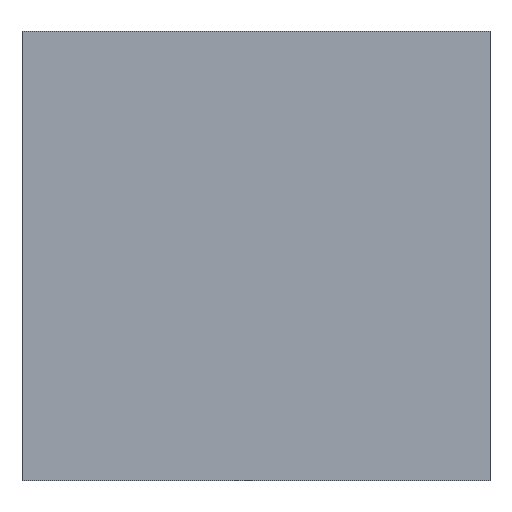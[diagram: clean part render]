
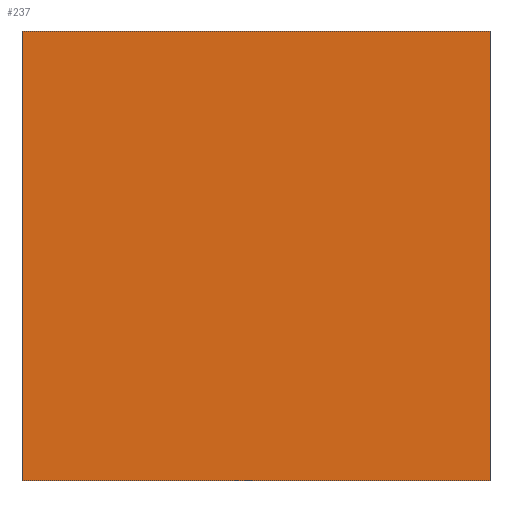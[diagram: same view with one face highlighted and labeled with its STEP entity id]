
A CAD part, front view. The second image highlights one B-rep face of the part: STEP entity #237.
In plain terms, the highlighted planar face has unit normal (0, -1, 0).
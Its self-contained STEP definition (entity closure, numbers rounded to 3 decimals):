
#24 = VERTEX_POINT('',#25);
#25 = CARTESIAN_POINT('',(-12.5,40.,256.5));
#32 = PLANE('',#33);
#33 = AXIS2_PLACEMENT_3D('',#34,#35,#36);
#34 = CARTESIAN_POINT('',(-12.5,40.,232.5));
#35 = DIRECTION('',(1.,0.,0.));
#36 = DIRECTION('',(0.,0.,1.));
#44 = PLANE('',#45);
#45 = AXIS2_PLACEMENT_3D('',#46,#47,#48);
#46 = CARTESIAN_POINT('',(-12.5,40.,256.5));
#47 = DIRECTION('',(0.,0.,1.));
#48 = DIRECTION('',(1.,0.,0.));
#85 = VERTEX_POINT('',#86);
#86 = CARTESIAN_POINT('',(-12.5,40.,232.5));
#100 = PLANE('',#101);
#101 = AXIS2_PLACEMENT_3D('',#102,#103,#104);
#102 = CARTESIAN_POINT('',(-12.5,40.,232.5));
#103 = DIRECTION('',(0.,0.,1.));
#104 = DIRECTION('',(1.,0.,0.));
#112 = EDGE_CURVE('',#85,#24,#113,.T.);
#113 = SURFACE_CURVE('',#114,(#118,#125),.PCURVE_S1.);
#114 = LINE('',#115,#116);
#115 = CARTESIAN_POINT('',(-12.5,40.,232.5));
#116 = VECTOR('',#117,1.);
#117 = DIRECTION('',(0.,0.,1.));
#118 = PCURVE('',#32,#119);
#119 = DEFINITIONAL_REPRESENTATION('',(#120),#124);
#120 = LINE('',#121,#122);
#121 = CARTESIAN_POINT('',(0.,0.));
#122 = VECTOR('',#123,1.);
#123 = DIRECTION('',(1.,0.));
#124 = ( GEOMETRIC_REPRESENTATION_CONTEXT(2) 
PARAMETRIC_REPRESENTATION_CONTEXT() REPRESENTATION_CONTEXT('2D SPACE',''
  ) );
#125 = PCURVE('',#126,#131);
#126 = PLANE('',#127);
#127 = AXIS2_PLACEMENT_3D('',#128,#129,#130);
#128 = CARTESIAN_POINT('',(-12.5,40.,232.5));
#129 = DIRECTION('',(0.,1.,0.));
#130 = DIRECTION('',(0.,0.,1.));
#131 = DEFINITIONAL_REPRESENTATION('',(#132),#136);
#132 = LINE('',#133,#134);
#133 = CARTESIAN_POINT('',(0.,0.));
#134 = VECTOR('',#135,1.);
#135 = DIRECTION('',(1.,0.));
#136 = ( GEOMETRIC_REPRESENTATION_CONTEXT(2) 
PARAMETRIC_REPRESENTATION_CONTEXT() REPRESENTATION_CONTEXT('2D SPACE',''
  ) );
#141 = EDGE_CURVE('',#142,#144,#146,.T.);
#142 = VERTEX_POINT('',#143);
#143 = CARTESIAN_POINT('',(12.5,40.,232.5));
#144 = VERTEX_POINT('',#145);
#145 = CARTESIAN_POINT('',(12.5,40.,256.5));
#146 = SURFACE_CURVE('',#147,(#151,#163),.PCURVE_S1.);
#147 = LINE('',#148,#149);
#148 = CARTESIAN_POINT('',(12.5,40.,232.5));
#149 = VECTOR('',#150,1.);
#150 = DIRECTION('',(0.,0.,1.));
#151 = PCURVE('',#152,#157);
#152 = PLANE('',#153);
#153 = AXIS2_PLACEMENT_3D('',#154,#155,#156);
#154 = CARTESIAN_POINT('',(12.5,40.,232.5));
#155 = DIRECTION('',(1.,0.,0.));
#156 = DIRECTION('',(0.,0.,1.));
#157 = DEFINITIONAL_REPRESENTATION('',(#158),#162);
#158 = LINE('',#159,#160);
#159 = CARTESIAN_POINT('',(0.,0.));
#160 = VECTOR('',#161,1.);
#161 = DIRECTION('',(1.,0.));
#162 = ( GEOMETRIC_REPRESENTATION_CONTEXT(2) 
PARAMETRIC_REPRESENTATION_CONTEXT() REPRESENTATION_CONTEXT('2D SPACE',''
  ) );
#163 = PCURVE('',#126,#164);
#164 = DEFINITIONAL_REPRESENTATION('',(#165),#169);
#165 = LINE('',#166,#167);
#166 = CARTESIAN_POINT('',(0.,25.));
#167 = VECTOR('',#168,1.);
#168 = DIRECTION('',(1.,0.));
#169 = ( GEOMETRIC_REPRESENTATION_CONTEXT(2) 
PARAMETRIC_REPRESENTATION_CONTEXT() REPRESENTATION_CONTEXT('2D SPACE',''
  ) );
#237 = ADVANCED_FACE('',(#238),#126,.F.);
#238 = FACE_BOUND('',#239,.T.);
#239 = EDGE_LOOP('',(#240,#241,#262,#263));
#240 = ORIENTED_EDGE('',*,*,#141,.T.);
#241 = ORIENTED_EDGE('',*,*,#242,.F.);
#242 = EDGE_CURVE('',#24,#144,#243,.T.);
#243 = SURFACE_CURVE('',#244,(#248,#255),.PCURVE_S1.);
#244 = LINE('',#245,#246);
#245 = CARTESIAN_POINT('',(-12.5,40.,256.5));
#246 = VECTOR('',#247,1.);
#247 = DIRECTION('',(1.,0.,0.));
#248 = PCURVE('',#126,#249);
#249 = DEFINITIONAL_REPRESENTATION('',(#250),#254);
#250 = LINE('',#251,#252);
#251 = CARTESIAN_POINT('',(24.,0.));
#252 = VECTOR('',#253,1.);
#253 = DIRECTION('',(0.,1.));
#254 = ( GEOMETRIC_REPRESENTATION_CONTEXT(2) 
PARAMETRIC_REPRESENTATION_CONTEXT() REPRESENTATION_CONTEXT('2D SPACE',''
  ) );
#255 = PCURVE('',#44,#256);
#256 = DEFINITIONAL_REPRESENTATION('',(#257),#261);
#257 = LINE('',#258,#259);
#258 = CARTESIAN_POINT('',(0.,0.));
#259 = VECTOR('',#260,1.);
#260 = DIRECTION('',(1.,0.));
#261 = ( GEOMETRIC_REPRESENTATION_CONTEXT(2) 
PARAMETRIC_REPRESENTATION_CONTEXT() REPRESENTATION_CONTEXT('2D SPACE',''
  ) );
#262 = ORIENTED_EDGE('',*,*,#112,.F.);
#263 = ORIENTED_EDGE('',*,*,#264,.T.);
#264 = EDGE_CURVE('',#85,#142,#265,.T.);
#265 = SURFACE_CURVE('',#266,(#270,#277),.PCURVE_S1.);
#266 = LINE('',#267,#268);
#267 = CARTESIAN_POINT('',(-12.5,40.,232.5));
#268 = VECTOR('',#269,1.);
#269 = DIRECTION('',(1.,0.,0.));
#270 = PCURVE('',#126,#271);
#271 = DEFINITIONAL_REPRESENTATION('',(#272),#276);
#272 = LINE('',#273,#274);
#273 = CARTESIAN_POINT('',(0.,0.));
#274 = VECTOR('',#275,1.);
#275 = DIRECTION('',(0.,1.));
#276 = ( GEOMETRIC_REPRESENTATION_CONTEXT(2) 
PARAMETRIC_REPRESENTATION_CONTEXT() REPRESENTATION_CONTEXT('2D SPACE',''
  ) );
#277 = PCURVE('',#100,#278);
#278 = DEFINITIONAL_REPRESENTATION('',(#279),#283);
#279 = LINE('',#280,#281);
#280 = CARTESIAN_POINT('',(0.,0.));
#281 = VECTOR('',#282,1.);
#282 = DIRECTION('',(1.,0.));
#283 = ( GEOMETRIC_REPRESENTATION_CONTEXT(2) 
PARAMETRIC_REPRESENTATION_CONTEXT() REPRESENTATION_CONTEXT('2D SPACE',''
  ) );
